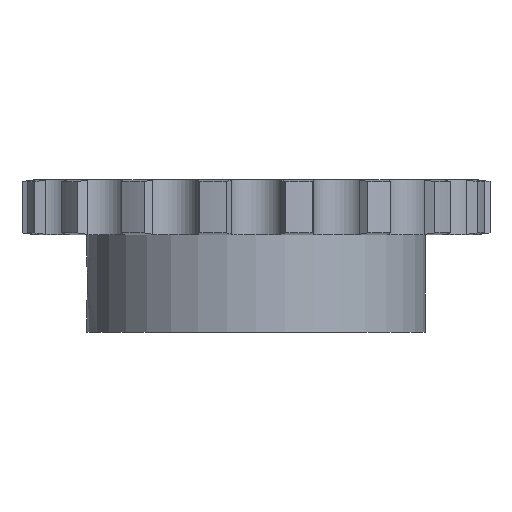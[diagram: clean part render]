
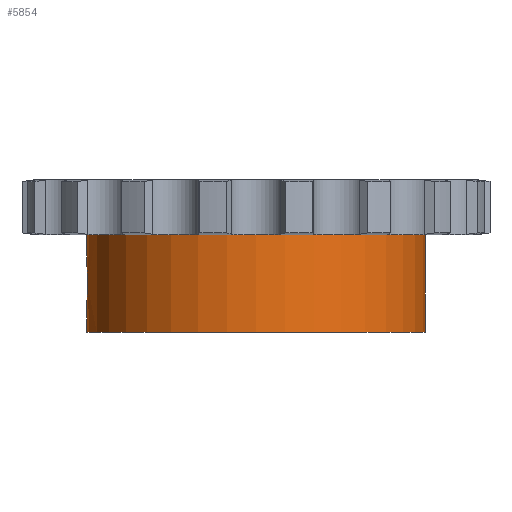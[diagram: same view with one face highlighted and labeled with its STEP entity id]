
A CAD part, front view. The second image highlights one B-rep face of the part: STEP entity #5854.
In plain terms, the highlighted cylindrical face has radius 50 mm (diameter 100 mm), a partial arc.
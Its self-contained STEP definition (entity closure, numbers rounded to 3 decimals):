
#1197=CARTESIAN_POINT('',(0.,0.,-8.1));
#1198=DIRECTION('',(0.,0.,1.));
#1199=DIRECTION('',(-1.,0.,0.));
#1200=AXIS2_PLACEMENT_3D('',#1197,#1198,#1199);
#2770=CARTESIAN_POINT('',(-50.,0.,
-16.5));
#2795=DIRECTION('',(0.,0.,1.));
#2796=VECTOR('',#2795,28.8);
#2797=CARTESIAN_POINT('',(50.,0.,-36.9));
#2798=LINE('',#2797,#2796);
#2926=CARTESIAN_POINT('',(-50.,0.,
-16.5));
#2927=CARTESIAN_POINT('',(-50.,-0.226,
-16.5));
#2928=CARTESIAN_POINT('',(-49.997,-0.706,
-16.526));
#2929=CARTESIAN_POINT('',(-49.981,-1.431,
-16.651));
#2930=CARTESIAN_POINT('',(-49.955,-2.16,
-16.871));
#2931=CARTESIAN_POINT('',(-49.92,-2.855,
-17.178));
#2932=CARTESIAN_POINT('',(-49.878,-3.506,
-17.569));
#2933=CARTESIAN_POINT('',(-49.832,-4.103,
-18.035));
#2934=CARTESIAN_POINT('',(-49.786,-4.633,
-18.568));
#2935=CARTESIAN_POINT('',(-49.741,-5.09,
-19.158));
#2936=CARTESIAN_POINT('',(-49.7,-5.47,
-19.799));
#2937=CARTESIAN_POINT('',(-49.666,-5.767,
-20.482));
#2938=CARTESIAN_POINT('',(-49.642,-5.975,
-21.191));
#2939=CARTESIAN_POINT('',(-49.628,-6.085,
-21.869));
#2940=CARTESIAN_POINT('',(-49.626,-6.107,
-22.305));
#2941=CARTESIAN_POINT('',(-49.626,-6.107,
-22.5));
#2946=DIRECTION('',(0.,0.,1.));
#2947=VECTOR('',#2946,8.4);
#2948=CARTESIAN_POINT('',(-50.,0.,
-16.5));
#2949=LINE('',#2948,#2947);
#2953=DIRECTION('',(0.,0.,1.));
#2954=VECTOR('',#2953,8.4);
#2955=CARTESIAN_POINT('',(-50.,0.,-36.9));
#2956=LINE('',#2955,#2954);
#2960=CARTESIAN_POINT('',(-49.626,-6.107,
-22.5));
#2961=CARTESIAN_POINT('',(-49.626,-6.107,
-22.706));
#2962=CARTESIAN_POINT('',(-49.629,-6.084,
-23.153));
#2963=CARTESIAN_POINT('',(-49.643,-5.968,
-23.84));
#2964=CARTESIAN_POINT('',(-49.668,-5.757,
-24.546));
#2965=CARTESIAN_POINT('',(-49.702,-5.458,
-25.225));
#2966=CARTESIAN_POINT('',(-49.742,-5.077,
-25.862));
#2967=CARTESIAN_POINT('',(-49.787,-4.619,
-26.448));
#2968=CARTESIAN_POINT('',(-49.834,-4.089,
-26.977));
#2969=CARTESIAN_POINT('',(-49.879,-3.494,
-27.44));
#2970=CARTESIAN_POINT('',(-49.921,-2.844,
-27.827));
#2971=CARTESIAN_POINT('',(-49.955,-2.151,
-28.132));
#2972=CARTESIAN_POINT('',(-49.982,-1.425,
-28.35));
#2973=CARTESIAN_POINT('',(-49.997,-0.703,
-28.474));
#2974=CARTESIAN_POINT('',(-50.,-0.225,
-28.5));
#2975=CARTESIAN_POINT('',(-50.,0.,
-28.5));
#2988=CARTESIAN_POINT('',(0.,0.,-36.9));
#2989=DIRECTION('',(0.,0.,-1.));
#2990=DIRECTION('',(1.,0.,0.));
#2991=AXIS2_PLACEMENT_3D('',#2988,#2989,#2990);
#3361=CARTESIAN_POINT('',(-50.,0.,-36.9));
#3362=CARTESIAN_POINT('',(50.,0.,-36.9));
#3363=VERTEX_POINT('',#3361);
#3364=VERTEX_POINT('',#3362);
#3365=CARTESIAN_POINT('',(50.,0.,-8.1));
#3366=VERTEX_POINT('',#3365);
#3367=CARTESIAN_POINT('',(-50.,0.,-8.1));
#3368=VERTEX_POINT('',#3367);
#3538=VERTEX_POINT('',#2770);
#3541=VERTEX_POINT('',#2941);
#3543=VERTEX_POINT('',#2975);
#5838=CARTESIAN_POINT('',(0.,0.,8.1));
#5839=DIRECTION('',(0.,0.,1.));
#5840=DIRECTION('',(1.,0.,0.));
#5841=AXIS2_PLACEMENT_3D('',#5838,#5839,#5840);
#5842=CYLINDRICAL_SURFACE('',#5841,50.);
#5843=ORIENTED_EDGE('',*,*,#5828,.F.);
#5844=ORIENTED_EDGE('',*,*,#5359,.T.);
#5845=ORIENTED_EDGE('',*,*,#4750,.T.);
#5846=ORIENTED_EDGE('',*,*,#5356,.F.);
#5848=ORIENTED_EDGE('',*,*,#5847,.T.);
#5849=ORIENTED_EDGE('',*,*,#5352,.T.);
#5851=ORIENTED_EDGE('',*,*,#5850,.F.);
#5852=EDGE_LOOP('',(#5843,#5844,#5845,#5846,#5848,#5849,#5851));
#5853=FACE_OUTER_BOUND('',#5852,.F.);
#5854=ADVANCED_FACE('',(#5853),#5842,.T.);
#1201=CIRCLE('',#1200,50.);
#2942=B_SPLINE_CURVE_WITH_KNOTS('',3,(#2926,#2927,#2928,#2929,#2930,#2931,#2932,
#2933,#2934,#2935,#2936,#2937,#2938,#2939,#2940,#2941),.UNSPECIFIED.,.F.,.F.,(4,
1,1,1,1,1,1,1,1,1,1,1,1,4),(0.,0.07,0.149,
0.228,0.306,0.385,0.464,
0.542,0.621,0.7,0.778,
0.857,0.935,1.),.UNSPECIFIED.);
#2976=B_SPLINE_CURVE_WITH_KNOTS('',3,(#2960,#2961,#2962,#2963,#2964,#2965,#2966,
#2967,#2968,#2969,#2970,#2971,#2972,#2973,#2974,#2975),.UNSPECIFIED.,.F.,.F.,(4,
1,1,1,1,1,1,1,1,1,1,1,1,4),(0.,0.068,0.147,
0.225,0.303,0.382,0.46,
0.538,0.617,0.695,0.773,
0.852,0.93,1.),.UNSPECIFIED.);
#2992=CIRCLE('',#2991,50.);
#4750=EDGE_CURVE('',#3368,#3366,#1201,.T.);
#5352=EDGE_CURVE('',#3363,#3543,#2956,.T.);
#5356=EDGE_CURVE('',#3364,#3366,#2798,.T.);
#5359=EDGE_CURVE('',#3538,#3368,#2949,.T.);
#5828=EDGE_CURVE('',#3538,#3541,#2942,.T.);
#5847=EDGE_CURVE('',#3364,#3363,#2992,.T.);
#5850=EDGE_CURVE('',#3541,#3543,#2976,.T.);
